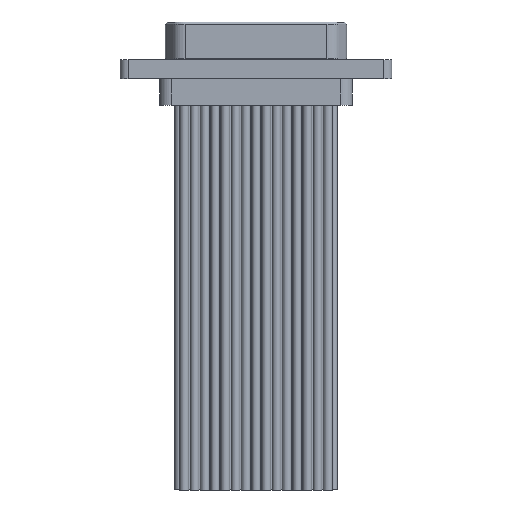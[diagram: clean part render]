
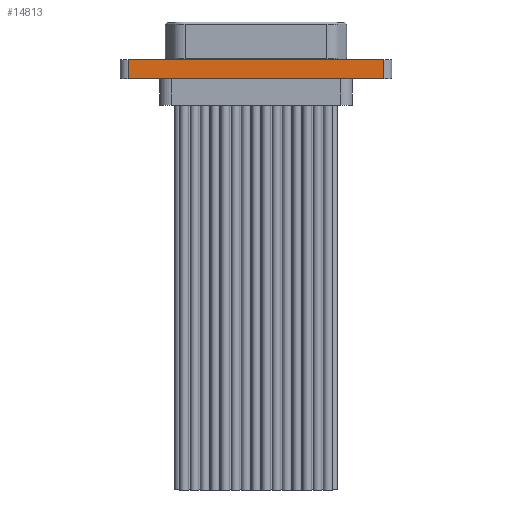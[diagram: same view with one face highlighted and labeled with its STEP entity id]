
A CAD part, front view. The second image highlights one B-rep face of the part: STEP entity #14813.
In plain terms, the highlighted planar face has unit normal (0, -1, 0).
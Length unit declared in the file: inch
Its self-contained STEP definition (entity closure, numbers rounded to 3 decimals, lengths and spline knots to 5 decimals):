
#240 = VERTEX_POINT ( 'NONE', #14474 ) ;
#446 = VECTOR ( 'NONE', #7741, 39.37008 ) ;
#3009 = DIRECTION ( 'NONE',  ( 0., 0., -1. ) ) ;
#3258 = CARTESIAN_POINT ( 'NONE',  ( 0.6225, -0.15, -0.051 ) ) ;
#3583 = DIRECTION ( 'NONE',  ( 0., -1., 0. ) ) ;
#3688 = DIRECTION ( 'NONE',  ( 0., 0., -1. ) ) ;
#4356 = CARTESIAN_POINT ( 'NONE',  ( -0.6225, -0.15, -0.051 ) ) ;
#4484 = LINE ( 'NONE', #3258, #18345 ) ;
#5380 = VERTEX_POINT ( 'NONE', #4356 ) ;
#5575 = AXIS2_PLACEMENT_3D ( 'NONE', #19571, #3583, #16200 ) ;
#5882 = CARTESIAN_POINT ( 'NONE',  ( 0.6225, -0.15, 0.042 ) ) ;
#6195 = LINE ( 'NONE', #16307, #15250 ) ;
#7741 = DIRECTION ( 'NONE',  ( -1., 0., 0. ) ) ;
#8312 = EDGE_CURVE ( 'NONE', #17117, #5380, #15302, .T. ) ;
#11136 = CARTESIAN_POINT ( 'NONE',  ( 0.6225, -0.15, -0.051 ) ) ;
#11543 = ORIENTED_EDGE ( 'NONE', *, *, #20833, .F. ) ;
#12545 = PLANE ( 'NONE',  #5575 ) ;
#13224 = VERTEX_POINT ( 'NONE', #11136 ) ;
#13769 = CARTESIAN_POINT ( 'NONE',  ( -0.6225, -0.15, 0.042 ) ) ;
#13877 = FACE_OUTER_BOUND ( 'NONE', #18128, .T. ) ;
#14474 = CARTESIAN_POINT ( 'NONE',  ( 0.6225, -0.15, 0.042 ) ) ;
#14729 = VECTOR ( 'NONE', #3009, 39.37008 ) ;
#14813 = ADVANCED_FACE ( 'NONE', ( #13877 ), #12545, .T. ) ;
#14829 = LINE ( 'NONE', #5882, #446 ) ;
#15092 = ORIENTED_EDGE ( 'NONE', *, *, #16606, .F. ) ;
#15250 = VECTOR ( 'NONE', #3688, 39.37008 ) ;
#15302 = LINE ( 'NONE', #13769, #14729 ) ;
#15859 = DIRECTION ( 'NONE',  ( -1., 0., 0. ) ) ;
#16200 = DIRECTION ( 'NONE',  ( 0., 0., 1. ) ) ;
#16254 = ORIENTED_EDGE ( 'NONE', *, *, #8312, .T. ) ;
#16307 = CARTESIAN_POINT ( 'NONE',  ( 0.6225, -0.15, 0.042 ) ) ;
#16606 = EDGE_CURVE ( 'NONE', #240, #13224, #6195, .T. ) ;
#17117 = VERTEX_POINT ( 'NONE', #22950 ) ;
#17636 = ORIENTED_EDGE ( 'NONE', *, *, #23153, .T. ) ;
#18128 = EDGE_LOOP ( 'NONE', ( #11543, #15092, #17636, #16254 ) ) ;
#18345 = VECTOR ( 'NONE', #15859, 39.37008 ) ;
#19571 = CARTESIAN_POINT ( 'NONE',  ( 0.6225, -0.15, 0.042 ) ) ;
#20833 = EDGE_CURVE ( 'NONE', #13224, #5380, #4484, .T. ) ;
#22950 = CARTESIAN_POINT ( 'NONE',  ( -0.6225, -0.15, 0.042 ) ) ;
#23153 = EDGE_CURVE ( 'NONE', #240, #17117, #14829, .T. ) ;
